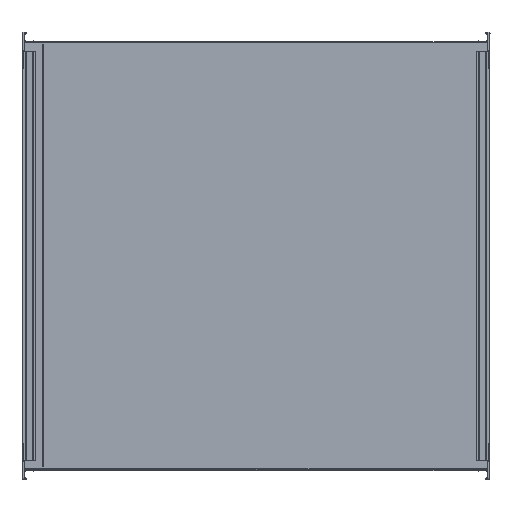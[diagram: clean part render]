
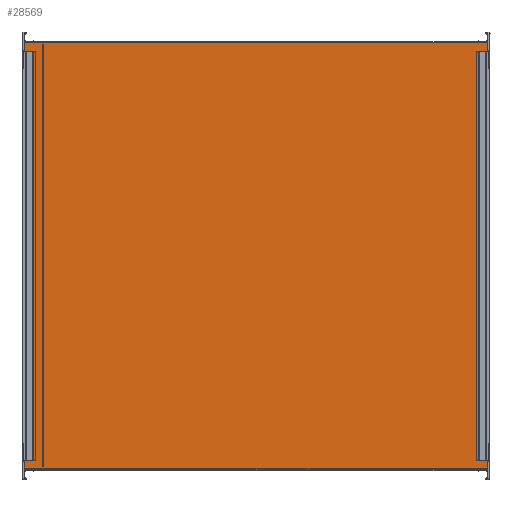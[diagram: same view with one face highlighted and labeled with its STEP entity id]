
A CAD part, top view. The second image highlights one B-rep face of the part: STEP entity #28569.
In plain terms, the highlighted planar face has unit normal (0, 0, 1).
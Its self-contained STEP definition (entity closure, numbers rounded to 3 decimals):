
#1302=FACE_BOUND('',#5088,.T.);
#1303=FACE_BOUND('',#5089,.T.);
#3603=FACE_OUTER_BOUND('',#5087,.T.);
#5087=EDGE_LOOP('',(#25429,#25430,#25431,#25432,#25433,#25434,#25435,#25436,
#25437,#25438,#25439,#25440,#25441,#25442));
#5088=EDGE_LOOP('',(#25443,#25444,#25445,#25446));
#5089=EDGE_LOOP('',(#25447,#25448,#25449,#25450));
#5479=LINE('',#39832,#8190);
#5887=LINE('',#43521,#8598);
#5900=LINE('',#43549,#8611);
#5929=LINE('',#43629,#8640);
#5994=LINE('',#43821,#8705);
#5998=LINE('',#43842,#8709);
#6000=LINE('',#43851,#8711);
#6017=LINE('',#43909,#8728);
#6913=LINE('',#46927,#9624);
#6997=LINE('',#47189,#9708);
#7072=LINE('',#47443,#9783);
#7104=LINE('',#47564,#9815);
#7116=LINE('',#47592,#9827);
#7117=LINE('',#47594,#9828);
#7407=LINE('',#48406,#10118);
#7511=LINE('',#48754,#10222);
#7535=LINE('',#48820,#10246);
#7536=LINE('',#48822,#10247);
#7627=LINE('',#49073,#10338);
#7784=LINE('',#49423,#10495);
#7789=LINE('',#49433,#10500);
#7799=LINE('',#49449,#10510);
#8190=VECTOR('',#31065,10.);
#8598=VECTOR('',#31659,10.);
#8611=VECTOR('',#31678,10.);
#8640=VECTOR('',#31731,10.);
#8705=VECTOR('',#31864,10.);
#8709=VECTOR('',#31886,10.);
#8711=VECTOR('',#31894,10.);
#8728=VECTOR('',#31937,10.);
#9624=VECTOR('',#34425,10.);
#9708=VECTOR('',#34697,10.);
#9783=VECTOR('',#34954,10.);
#9815=VECTOR('',#35048,10.);
#9827=VECTOR('',#35082,10.);
#9828=VECTOR('',#35085,10.);
#10118=VECTOR('',#35945,10.);
#10222=VECTOR('',#36265,10.);
#10246=VECTOR('',#36327,10.);
#10247=VECTOR('',#36330,10.);
#10338=VECTOR('',#36613,10.);
#10495=VECTOR('',#36952,10.);
#10500=VECTOR('',#36963,10.);
#10510=VECTOR('',#36981,10.);
#10929=VERTEX_POINT('',#39813);
#10938=VERTEX_POINT('',#39830);
#11436=VERTEX_POINT('',#43518);
#11437=VERTEX_POINT('',#43520);
#11449=VERTEX_POINT('',#43548);
#11488=VERTEX_POINT('',#43628);
#11580=VERTEX_POINT('',#43819);
#11581=VERTEX_POINT('',#43820);
#11588=VERTEX_POINT('',#43840);
#11589=VERTEX_POINT('',#43841);
#11592=VERTEX_POINT('',#43849);
#11593=VERTEX_POINT('',#43850);
#11620=VERTEX_POINT('',#43906);
#11621=VERTEX_POINT('',#43908);
#12501=VERTEX_POINT('',#46926);
#12573=VERTEX_POINT('',#47188);
#12642=VERTEX_POINT('',#47440);
#12643=VERTEX_POINT('',#47442);
#12700=VERTEX_POINT('',#47561);
#12701=VERTEX_POINT('',#47563);
#13024=VERTEX_POINT('',#48751);
#13025=VERTEX_POINT('',#48753);
#13813=EDGE_CURVE('',#10938,#10929,#5479,.T.);
#14555=EDGE_CURVE('',#11436,#11437,#5887,.T.);
#14568=EDGE_CURVE('',#11436,#11449,#5900,.T.);
#14608=EDGE_CURVE('',#11488,#10929,#5929,.T.);
#14702=EDGE_CURVE('',#11580,#11581,#5994,.T.);
#14712=EDGE_CURVE('',#11588,#11589,#5998,.T.);
#14716=EDGE_CURVE('',#11592,#11593,#6000,.T.);
#14745=EDGE_CURVE('',#11621,#11620,#6017,.T.);
#16052=EDGE_CURVE('',#11449,#12501,#6913,.T.);
#16180=EDGE_CURVE('',#12573,#11488,#6997,.T.);
#16301=EDGE_CURVE('',#12643,#12642,#7072,.T.);
#16363=EDGE_CURVE('',#12701,#12700,#7104,.T.);
#16379=EDGE_CURVE('',#12701,#12642,#7116,.T.);
#16380=EDGE_CURVE('',#12700,#12643,#7117,.T.);
#16783=EDGE_CURVE('',#10938,#11580,#7407,.T.);
#16946=EDGE_CURVE('',#13025,#13024,#7511,.T.);
#16982=EDGE_CURVE('',#11621,#13024,#7535,.T.);
#16983=EDGE_CURVE('',#11620,#13025,#7536,.T.);
#17100=EDGE_CURVE('',#11589,#11437,#7627,.T.);
#17277=EDGE_CURVE('',#12573,#12501,#7784,.T.);
#17282=EDGE_CURVE('',#11588,#11592,#7789,.T.);
#17292=EDGE_CURVE('',#11593,#11581,#7799,.T.);
#25429=ORIENTED_EDGE('',*,*,#14568,.T.);
#25430=ORIENTED_EDGE('',*,*,#16052,.T.);
#25431=ORIENTED_EDGE('',*,*,#17277,.F.);
#25432=ORIENTED_EDGE('',*,*,#16180,.T.);
#25433=ORIENTED_EDGE('',*,*,#14608,.T.);
#25434=ORIENTED_EDGE('',*,*,#13813,.F.);
#25435=ORIENTED_EDGE('',*,*,#16783,.T.);
#25436=ORIENTED_EDGE('',*,*,#14702,.T.);
#25437=ORIENTED_EDGE('',*,*,#17292,.F.);
#25438=ORIENTED_EDGE('',*,*,#14716,.F.);
#25439=ORIENTED_EDGE('',*,*,#17282,.F.);
#25440=ORIENTED_EDGE('',*,*,#14712,.T.);
#25441=ORIENTED_EDGE('',*,*,#17100,.T.);
#25442=ORIENTED_EDGE('',*,*,#14555,.F.);
#25443=ORIENTED_EDGE('',*,*,#14745,.T.);
#25444=ORIENTED_EDGE('',*,*,#16983,.T.);
#25445=ORIENTED_EDGE('',*,*,#16946,.T.);
#25446=ORIENTED_EDGE('',*,*,#16982,.F.);
#25447=ORIENTED_EDGE('',*,*,#16363,.T.);
#25448=ORIENTED_EDGE('',*,*,#16380,.T.);
#25449=ORIENTED_EDGE('',*,*,#16301,.T.);
#25450=ORIENTED_EDGE('',*,*,#16379,.F.);
#26200=PLANE('',#30483);
#28569=ADVANCED_FACE('',(#3603,#1302,#1303),#26200,.F.);
#30483=AXIS2_PLACEMENT_3D('',#49448,#36979,#36980);
#31065=DIRECTION('',(1.,0.,0.));
#31659=DIRECTION('',(-1.,0.,0.));
#31678=DIRECTION('',(0.,1.,0.));
#31731=DIRECTION('',(0.,1.,0.));
#31864=DIRECTION('',(-1.,0.,0.));
#31886=DIRECTION('',(1.,0.,0.));
#31894=DIRECTION('',(0.,1.,0.));
#31937=DIRECTION('',(1.,0.,0.));
#34425=DIRECTION('',(1.,0.,0.));
#34697=DIRECTION('',(-1.,0.,0.));
#34954=DIRECTION('',(1.,0.,0.));
#35048=DIRECTION('',(-1.,0.,0.));
#35082=DIRECTION('',(0.,1.,0.));
#35085=DIRECTION('',(0.,1.,0.));
#35945=DIRECTION('',(0.,-1.,0.));
#36265=DIRECTION('',(-1.,0.,0.));
#36327=DIRECTION('',(0.,-1.,0.));
#36330=DIRECTION('',(0.,-1.,0.));
#36613=DIRECTION('',(0.,-1.,0.));
#36952=DIRECTION('',(0.,-1.,0.));
#36963=DIRECTION('',(0.,1.,0.));
#36979=DIRECTION('center_axis',(0.,0.,-1.));
#36980=DIRECTION('ref_axis',(-1.,0.,0.));
#36981=DIRECTION('',(0.,1.,0.));
#39813=CARTESIAN_POINT('',(-2.1,803.,1.5));
#39830=CARTESIAN_POINT('',(-875.5,803.,1.5));
#39832=CARTESIAN_POINT('',(-658.5,803.,1.5));
#43518=CARTESIAN_POINT('',(-2.1,0.,1.5));
#43520=CARTESIAN_POINT('',(-875.5,0.,1.5));
#43521=CARTESIAN_POINT('',(-219.5,0.,1.5));
#43548=CARTESIAN_POINT('',(-2.1,0.903,1.5));
#43549=CARTESIAN_POINT('',(-2.1,395.025,1.5));
#43628=CARTESIAN_POINT('',(-2.1,801.897,1.5));
#43629=CARTESIAN_POINT('',(-2.1,787.875,1.5));
#43819=CARTESIAN_POINT('',(-875.5,801.897,1.5));
#43820=CARTESIAN_POINT('',(-878.,801.897,1.5));
#43821=CARTESIAN_POINT('',(-878.,801.897,1.5));
#43840=CARTESIAN_POINT('',(-878.,0.903,1.5));
#43841=CARTESIAN_POINT('',(-875.5,0.903,1.5));
#43842=CARTESIAN_POINT('',(-878.,0.903,1.5));
#43849=CARTESIAN_POINT('',(-878.,16.4,1.5));
#43850=CARTESIAN_POINT('',(-878.,786.4,1.5));
#43851=CARTESIAN_POINT('',(-878.,0.,1.5));
#43906=CARTESIAN_POINT('',(-858.936,786.4,1.5));
#43908=CARTESIAN_POINT('',(-871.233,786.4,1.5));
#43909=CARTESIAN_POINT('',(-859.011,786.4,1.5));
#46926=CARTESIAN_POINT('',(0.,0.903,1.5));
#46927=CARTESIAN_POINT('',(0.4,0.903,1.5));
#47188=CARTESIAN_POINT('',(0.,801.897,1.5));
#47189=CARTESIAN_POINT('',(0.4,801.897,1.5));
#47440=CARTESIAN_POINT('',(-6.367,786.4,1.5));
#47442=CARTESIAN_POINT('',(-18.664,786.4,1.5));
#47443=CARTESIAN_POINT('',(-426.789,786.4,1.5));
#47561=CARTESIAN_POINT('',(-18.664,16.4,1.5));
#47563=CARTESIAN_POINT('',(-6.367,16.4,1.5));
#47564=CARTESIAN_POINT('',(-426.789,16.4,1.5));
#47592=CARTESIAN_POINT('',(-6.367,16.4,1.5));
#47594=CARTESIAN_POINT('',(-18.664,16.4,1.5));
#48406=CARTESIAN_POINT('',(-875.5,787.875,1.5));
#48751=CARTESIAN_POINT('',(-871.233,16.4,1.5));
#48753=CARTESIAN_POINT('',(-858.936,16.4,1.5));
#48754=CARTESIAN_POINT('',(-859.011,16.4,1.5));
#48820=CARTESIAN_POINT('',(-871.233,786.4,1.5));
#48822=CARTESIAN_POINT('',(-858.936,786.4,1.5));
#49073=CARTESIAN_POINT('',(-875.5,395.025,1.5));
#49423=CARTESIAN_POINT('',(0.,803.,1.5));
#49433=CARTESIAN_POINT('',(-878.,0.,1.5));
#49448=CARTESIAN_POINT('Origin',(-847.,781.5,1.5));
#49449=CARTESIAN_POINT('',(-878.,0.,1.5));
